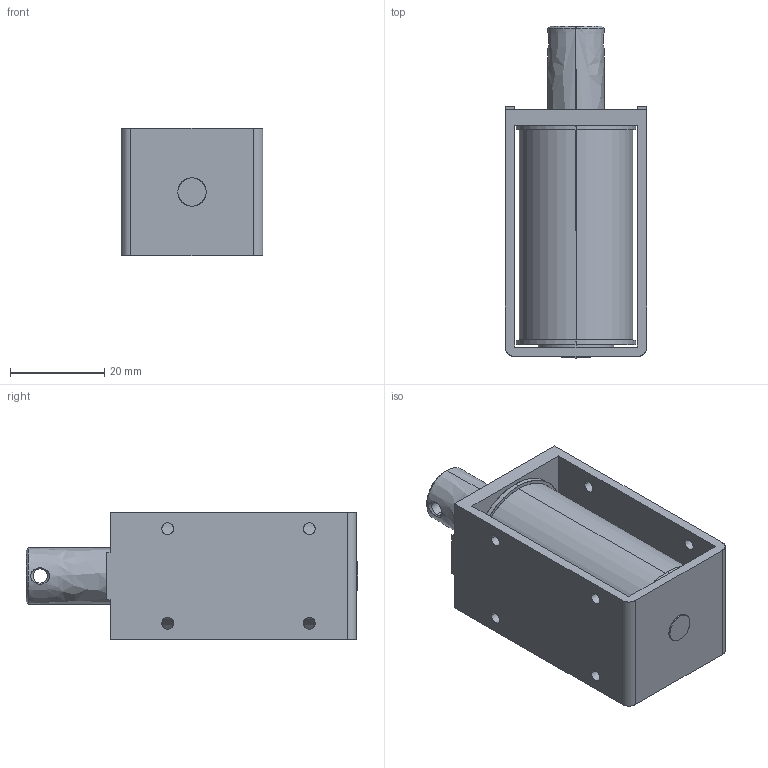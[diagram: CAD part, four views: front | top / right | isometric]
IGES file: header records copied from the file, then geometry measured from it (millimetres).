
Start section: SolidWorks IGES file using analytic representation for surfaces
Global section: file name: L:\カタログ\web用3Dデータ\CE1253\3D_CE1253\w_ce1253.IGS; native system: SolidWorks 2014; preprocessor: SolidWorks 2014; author: jiba; date: 140724.131900; units: millimetre
Bounding box: 30 x 70.3 x 27 mm (x, y, z)
Surface area: 16251.3 mm2 (no closed solid volume)
Topology: 0 solids, 0 shells, 74 faces, 1588 edges, 1588 vertices
Faces by surface type: revolution 46, bspline 28
